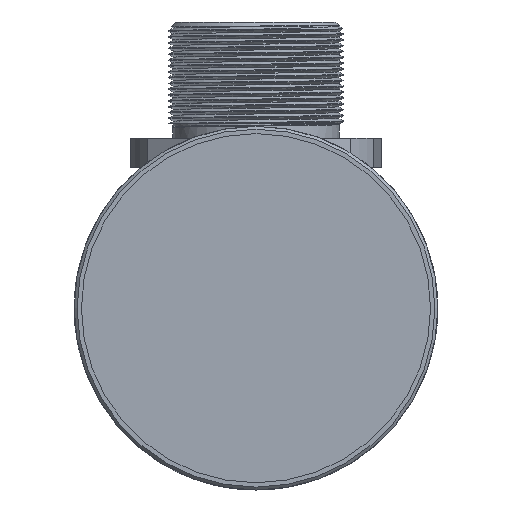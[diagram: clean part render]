
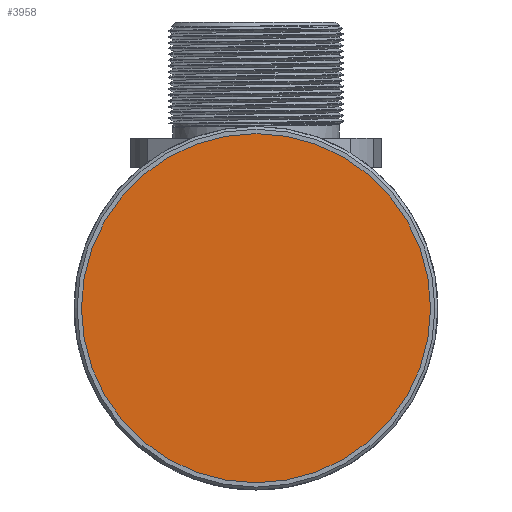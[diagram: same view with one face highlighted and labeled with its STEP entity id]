
A CAD part, left-side view. The second image highlights one B-rep face of the part: STEP entity #3958.
In plain terms, the highlighted planar face has unit normal (-1, 0, 0).
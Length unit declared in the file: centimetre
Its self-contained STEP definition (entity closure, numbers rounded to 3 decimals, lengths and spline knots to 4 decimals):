
#864=CIRCLE('',#4220,1.2);
#1066=VERTEX_POINT('',#5975);
#1956=EDGE_CURVE('',#1066,#1066,#864,.T.);
#2618=ORIENTED_EDGE('',*,*,#1956,.T.);
#3422=EDGE_LOOP('',(#2618));
#3694=FACE_BOUND('',#3422,.T.);
#3958=ADVANCED_FACE('',(#3694),#17349,.T.);
#4220=AXIS2_PLACEMENT_3D('',#5974,#4660,#4661);
#4222=AXIS2_PLACEMENT_3D('',#5978,#4664,$);
#4660=DIRECTION('',(-1.,0.,0.));
#4661=DIRECTION('',(0.,0.,1.2));
#4664=DIRECTION('',(-1.,0.,0.));
#5974=CARTESIAN_POINT('',(0.1,0.,0.));
#5975=CARTESIAN_POINT('',(0.1,0.,1.2));
#5978=CARTESIAN_POINT('',(0.1,0.,0.));
#17349=PLANE('',#4222);
